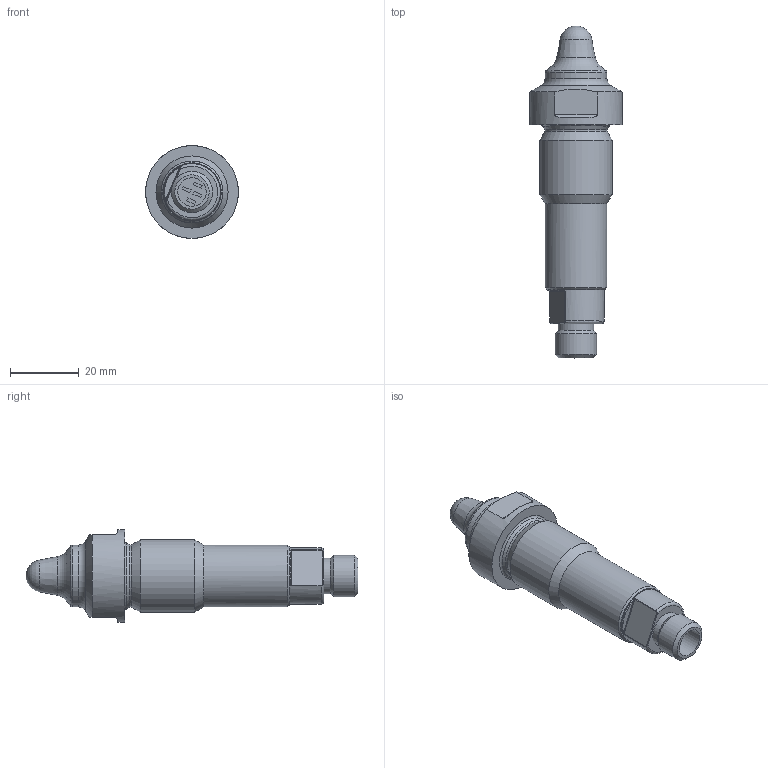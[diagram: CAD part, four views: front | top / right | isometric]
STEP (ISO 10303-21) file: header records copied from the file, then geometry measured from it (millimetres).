
FILE_DESCRIPTION( ( 'Unknown' ), '1' );
FILE_NAME( 'F:/U_Proces/Dokumentation/7000 3D Step filer/7000-/7000053/Reverse_Assembly.stp', 'Unknown', ( 'Unknown' ), ( 'Unknown' ), 'PSStep 13.0', 'Unknown', ' ' );
FILE_SCHEMA( ( 'AUTOMOTIVE_DESIGN { 1 0 10303 214 1 1 1 1 }' ) );
Length unit declared in the file: millimetre
Products named in the file (1): SPIDS1
Bounding box: 27 x 96.61 x 27 mm (x, y, z)
Surface area: 10248 mm2 (no closed solid volume)
Topology: 0 solids, 105 shells, 105 faces, 450 edges, 410 vertices
Faces by surface type: plane 52, cylinder 23, cone 17, torus 8, bspline 4, sphere 1
Full cylindrical faces by diameter (mm): 8.3 x1, 10.4 x1, 12 x1, 13 x1, 14.8 x1, 15 x1, 15.15 x1, 15.45 x2, 15.5 x1, 16.45 x1, 16.5 x1, 18 x2, 21 x1, 27 x1
Entity records: 5640 total; most frequent: CARTESIAN_POINT 1598, DIRECTION 670, ORIENTED_EDGE 386, EDGE_CURVE 386, VERTEX_POINT 386, AXIS2_PLACEMENT_3D 236, LINE 198, VECTOR 198
